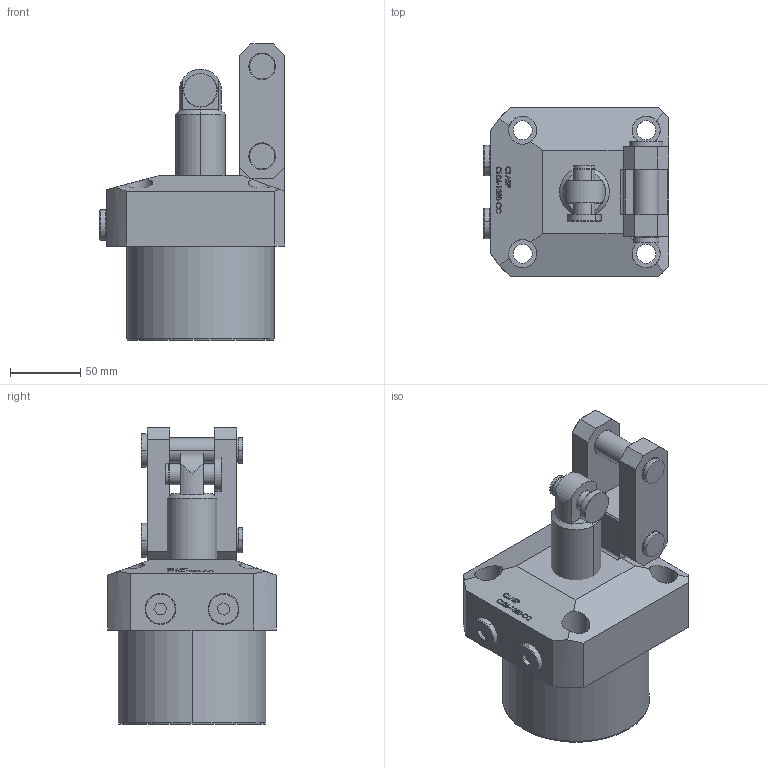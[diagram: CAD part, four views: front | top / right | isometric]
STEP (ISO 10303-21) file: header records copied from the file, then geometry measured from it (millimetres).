
FILE_DESCRIPTION (( 'STEP AP203' ), '1' );
FILE_NAME ('CL06-1050-cc.STEP', '2022-07-05T17:44:33', ( '' ), ( '' ), 'SwSTEP 2.0', 'SolidWorks 2017', '' );
FILE_SCHEMA (( 'CONFIG_CONTROL_DESIGN' ));
Length unit declared in the file: millimetre
Products named in the file (7): CL06-1050 Part1 cc; CL06-1050 Part3 cc; CL06-1050 Part2 cc; CL06-1050 Part5 cc; CL06-1050 Part6 cc; CL06-1050 Part7 cc; CL06-1050-cc
Assembly tree (9 placements, depth 2):
  CL06-1050-cc
    CL06-1050 Part1 cc
    CL06-1050 Part3 cc
    CL06-1050 Part2 cc  x2
    CL06-1050 Part5 cc  x2
    CL06-1050 Part6 cc  x2
    CL06-1050 Part7 cc
Bounding box: 132 x 120 x 211 mm (x, y, z)
Volume: 1440734.5 mm3; surface area: 138024.9 mm2
Topology: 9 solids, 9 shells, 400 faces, 983 edges, 640 vertices
Faces by surface type: plane 173, bspline 101, cylinder 84, cone 42
Entity records: 17448 total; most frequent: CARTESIAN_POINT 8882, ORIENTED_EDGE 1742, DIRECTION 1313, EDGE_CURVE 871, VERTEX_POINT 572, VECTOR 483, LINE 483, AXIS2_PLACEMENT_3D 415
